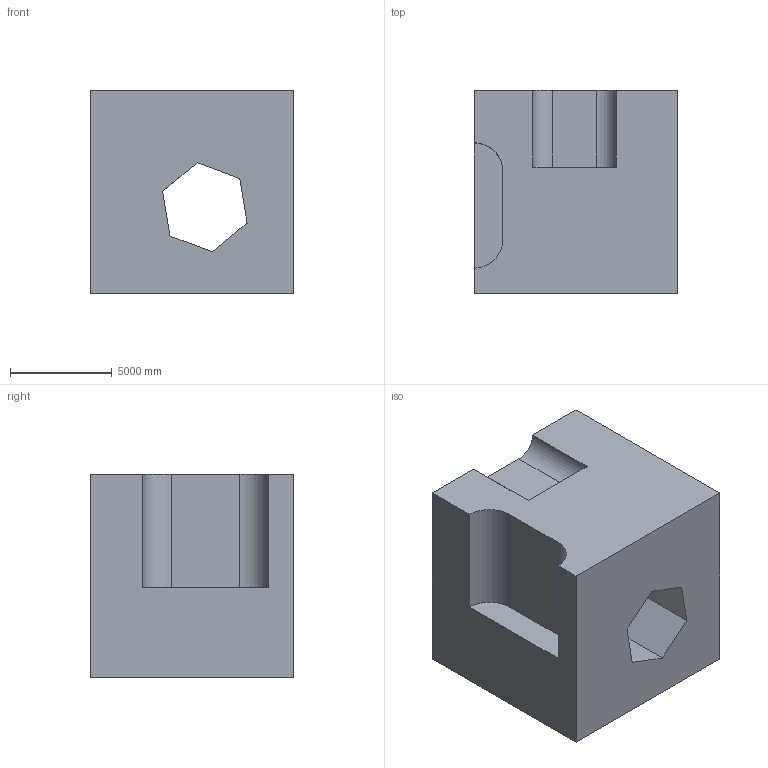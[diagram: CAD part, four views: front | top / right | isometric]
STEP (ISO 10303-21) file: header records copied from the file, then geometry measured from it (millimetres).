
FILE_DESCRIPTION (( 'STEP AP203' ), '1' );
FILE_NAME ('1362.STEP', '2022-08-18T14:02:56', ( 'user' ), ( '' ), 'SwSTEP 2.0', 'SolidWorks 2021', '' );
FILE_SCHEMA (( 'CONFIG_CONTROL_DESIGN' ));
Length unit declared in the file: centimetre
Products named in the file (1): 1362
Bounding box: 10000 x 10000 x 10000 mm (x, y, z)
Volume: 812515250492.2 mm3; surface area: 725243532 mm2
Topology: 1 solids, 1 shells, 23 faces, 63 edges, 42 vertices
Faces by surface type: plane 19, cylinder 4
Entity records: 806 total; most frequent: CARTESIAN_POINT 129, ORIENTED_EDGE 126, DIRECTION 119, EDGE_CURVE 63, LINE 55, VECTOR 55, VERTEX_POINT 42, AXIS2_PLACEMENT_3D 32
